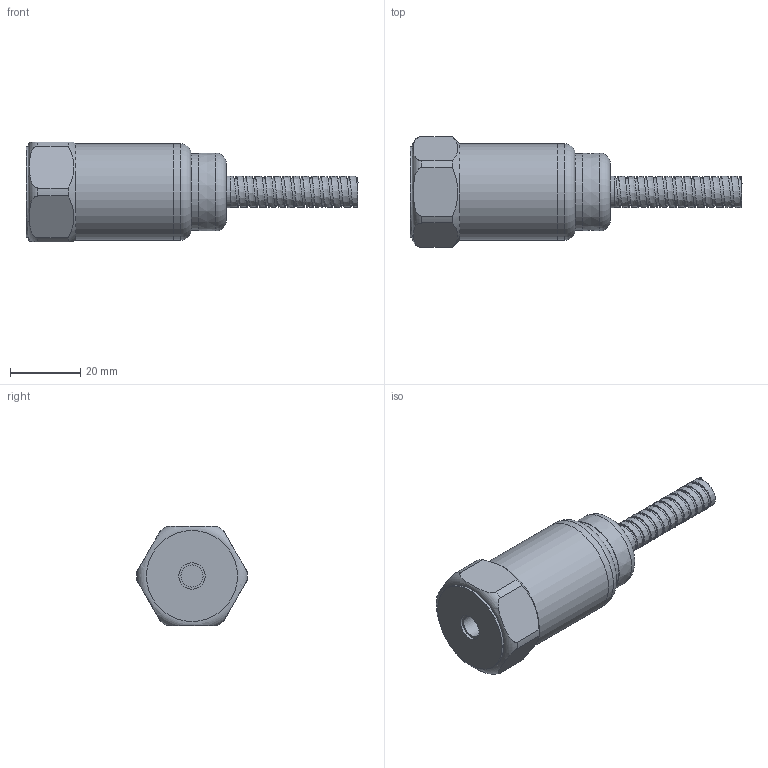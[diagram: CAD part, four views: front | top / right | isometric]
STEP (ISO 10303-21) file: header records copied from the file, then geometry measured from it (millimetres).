
FILE_DESCRIPTION(/* description */ (''),/* implementation_level */ '2;1');
FILE_NAME(/* name */ 'Z:\Engineering\Drawings\3D Library\Assemblies\Website\420 Velocity Top\HS-420XXX30C01.stp',/* time_stamp */ '2023-05-03T15:10:15+01:00',/* author */ ('Ricardo.Peneda'),/* organization */ (''),/* preprocessor_version */ 'ST-DEVELOPER v18.1',/* originating_system */ 'Autodesk Inventor 2021',/* authorisation */ '');
FILE_SCHEMA (('AUTOMOTIVE_DESIGN { 1 0 10303 214 3 1 1 }'));
Length unit declared in the file: inch
Products named in the file (1): HS-420XXX30C01_Shrinkwrap_1
Bounding box: 94.8 x 31.69 x 28.5 mm (x, y, z)
Volume: 14097.3 mm3; surface area: 14580.9 mm2
Topology: 4 solids, 4 shells, 76 faces, 207 edges, 144 vertices
Faces by surface type: cone 27, plane 20, cylinder 17, bspline 8, torus 4
Full cylindrical faces by diameter (mm): 6.3 x1, 7.5 x1, 9 x1, 20 x1, 22 x1, 23.3 x1, 25.3 x2, 26 x1, 27.5 x2
Entity records: 16697 total; most frequent: CARTESIAN_POINT 14592, DIRECTION 431, ORIENTED_EDGE 414, EDGE_CURVE 207, AXIS2_PLACEMENT_3D 185, VERTEX_POINT 144, CIRCLE 116, EDGE_LOOP 85
